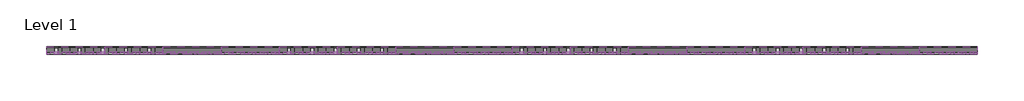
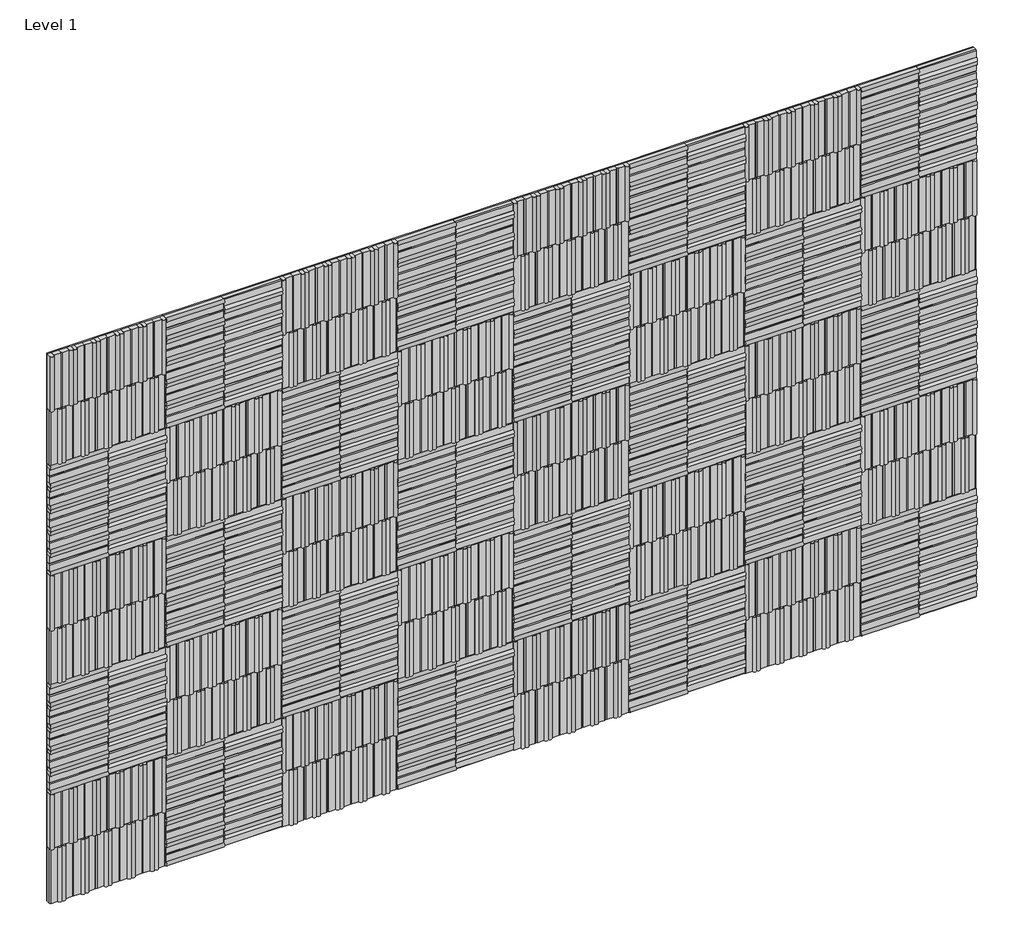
# One storey: 80 proxies.
"""IFC4 building model written with IfcOpenShell, lengths in millimetres."""

import ifcopenshell
import ifcopenshell.guid

model = None  # the IFC model being written
_history = None  # IfcOwnerHistory: only IFC2X3 demands one
_inside = {}  # id of a spatial element -> (the spatial element, [elements in it])
_under = {}  # id of a project, library or spatial element -> (it, [spatial elements below it])
_declared = {}  # id of a project -> (the project, [libraries it declares])
_typed = {}  # id of a type object -> (the type object, [elements of that type])
_made_of = {}  # id of a material, layer set ... -> (it, [elements and type objects made of it])


def new_model(schema):
    """Start an empty IFC model of exactly this schema.

    Asked for "IFC4X3", IfcOpenShell would pick the latest addendum, in which some entities
    have other attributes; the version numbers below select the first issue.
    IFC2X3 requires an IfcOwnerHistory on every rooted entity: one is made here for all.
    """
    global model, _history
    if schema == "IFC4X3":
        model = ifcopenshell.file(schema_version=(4, 3, 0, 0))
    else:
        model = ifcopenshell.file(schema=schema)
    _inside.clear()
    _under.clear()
    _declared.clear()
    _typed.clear()
    _made_of.clear()
    _history = None
    if model.schema == "IFC2X3":
        org = make("IfcOrganization", Name="unknown")
        user = make(
            "IfcPersonAndOrganization",
            ThePerson=make("IfcPerson", FamilyName="unknown"),
            TheOrganization=org,
        )
        app = make(
            "IfcApplication",
            ApplicationDeveloper=org,
            Version="unknown",
            ApplicationFullName="unknown",
            ApplicationIdentifier="unknown",
        )
        _history = make(
            "IfcOwnerHistory",
            OwningUser=user,
            OwningApplication=app,
            ChangeAction="ADDED",
            CreationDate=0,
        )
    return model


def make(cls, **values):
    """One entity of the class cls with the attributes given. An attribute that is None is left unset."""
    return model.create_entity(
        cls, **{name: value for name, value in values.items() if value is not None}
    )


def rooted(cls, **values):
    """An entity with a GlobalId (a new one), such as an element, a storey or a relation."""
    return make(cls, GlobalId=ifcopenshell.guid.new(), OwnerHistory=_history, **values)


def si_unit(unit_type, name, prefix=None):
    """IfcSIUnit, for example si_unit("LENGTHUNIT", "METRE", prefix="MILLI")."""
    return make("IfcSIUnit", UnitType=unit_type, Prefix=prefix, Name=name)


def assignment(units):
    """IfcUnitAssignment: the units of a project."""
    return None if units is None else make("IfcUnitAssignment", Units=units)


def point(xyz):
    """IfcCartesianPoint."""
    return None if xyz is None else make("IfcCartesianPoint", Coordinates=xyz)


def direction(xyz):
    """IfcDirection."""
    return None if xyz is None else make("IfcDirection", DirectionRatios=xyz)


def frame(location, z_axis=None, x_axis=None):
    """IfcAxis2Placement3D, a coordinate frame: its origin and axes. An axis left out is left unset."""
    return make(
        "IfcAxis2Placement3D",
        Location=point(location),
        Axis=direction(z_axis),
        RefDirection=direction(x_axis),
    )


def frame_2d(location, x_axis=None):
    """IfcAxis2Placement2D, a coordinate frame in the plane: its origin and x axis."""
    return make(
        "IfcAxis2Placement2D", Location=point(location), RefDirection=direction(x_axis)
    )


def origin():
    """The frame at (0, 0, 0) with its axes left unset."""
    return frame((0.0, 0.0, 0.0))


def origin_with_axes():
    """The frame at (0, 0, 0) with the z axis (0, 0, 1) and the x axis (1, 0, 0) written out."""
    return frame((0.0, 0.0, 0.0), z_axis=(0.0, 0.0, 1.0), x_axis=(1.0, 0.0, 0.0))


def place(relative_to, where):
    """IfcLocalPlacement: puts the frame where relative to a parent placement (None: the world)."""
    return make(
        "IfcLocalPlacement", PlacementRelTo=relative_to, RelativePlacement=where
    )


def context(
    kind, dimensions, precision=None, world=None, true_north=None, identifier=None
):
    """IfcGeometricRepresentationContext, for example the 3D "Model" context."""
    return make(
        "IfcGeometricRepresentationContext",
        ContextIdentifier=identifier,
        ContextType=kind,
        CoordinateSpaceDimension=dimensions,
        Precision=precision,
        WorldCoordinateSystem=world,
        TrueNorth=true_north,
    )


def project(units=None, contexts=None):
    """IfcProject with its units and contexts."""
    return rooted(
        "IfcProject",
        Name="project",
        RepresentationContexts=contexts,
        UnitsInContext=assignment(units),
    )


def spatial(cls, under=None, at=None, **own):
    """A site, building, storey or space (cls), placed at a placement, below another one or the project."""
    s = rooted(cls, ObjectPlacement=at, **own)
    if under is not None:
        _under.setdefault(under.id(), (under, []))[1].append(s)
    return s


def polyline(points):
    """IfcPolyline through the points."""
    return make("IfcPolyline", Points=[point(p) for p in points])


def circle_curve(where, radius):
    """IfcCircle in the frame where."""
    return make("IfcCircle", Position=where, Radius=radius)


def trimmed(basis, trim1, trim2, sense, master):
    """IfcTrimmedCurve: the piece of a basis curve between two trims."""
    return make(
        "IfcTrimmedCurve",
        BasisCurve=basis,
        Trim1=trim1,
        Trim2=trim2,
        SenseAgreement=sense,
        MasterRepresentation=master,
    )


def segment(curve, same_sense, transition):
    """IfcCompositeCurveSegment."""
    return make(
        "IfcCompositeCurveSegment",
        Transition=transition,
        SameSense=same_sense,
        ParentCurve=curve,
    )


def composite_curve(segments, self_intersect=None):
    """IfcCompositeCurve: segments joined end to end."""
    return make("IfcCompositeCurve", Segments=segments, SelfIntersect=self_intersect)


def outline(outer, holes=None, kind="AREA"):
    """IfcArbitraryClosedProfileDef: a profile drawn as a closed curve; with holes, ...WithVoids."""
    if holes is None:
        return make("IfcArbitraryClosedProfileDef", ProfileType=kind, OuterCurve=outer)
    return make(
        "IfcArbitraryProfileDefWithVoids",
        ProfileType=kind,
        OuterCurve=outer,
        InnerCurves=holes,
    )


def extrude(swept, where, along, depth):
    """IfcExtrudedAreaSolid: the profile swept, set in the frame where, extruded along a direction by depth."""
    return make(
        "IfcExtrudedAreaSolid",
        SweptArea=swept,
        Position=where,
        ExtrudedDirection=direction(along),
        Depth=depth,
    )


def shape(context_of_items, identifier, shape_type, items):
    """IfcShapeRepresentation: the items that make up one representation, for example the "Body"."""
    return make(
        "IfcShapeRepresentation",
        ContextOfItems=context_of_items,
        RepresentationIdentifier=identifier,
        RepresentationType=shape_type,
        Items=items,
    )


def source(mapping_origin, context_of_items, identifier, shape_type, items):
    """IfcRepresentationMap: a shape defined once, which mapped items show again and again."""
    return make(
        "IfcRepresentationMap",
        MappingOrigin=mapping_origin,
        MappedRepresentation=shape(context_of_items, identifier, shape_type, items),
    )


def transform(
    local_origin,
    x_axis=None,
    y_axis=None,
    z_axis=None,
    scale=None,
    scale2=None,
    scale3=None,
    uniform=True,
):
    """IfcCartesianTransformationOperator3D, or its non-uniform kind. x_axis, y_axis, z_axis: its Axis1, 2, 3."""
    if uniform:
        return make(
            "IfcCartesianTransformationOperator3D",
            Axis1=direction(x_axis),
            Axis2=direction(y_axis),
            LocalOrigin=point(local_origin),
            Scale=scale,
            Axis3=direction(z_axis),
        )
    return make(
        "IfcCartesianTransformationOperator3DnonUniform",
        Axis1=direction(x_axis),
        Axis2=direction(y_axis),
        LocalOrigin=point(local_origin),
        Scale=scale,
        Axis3=direction(z_axis),
        Scale2=scale2,
        Scale3=scale3,
    )


def mapped(mapping_source, mapping_target):
    """IfcMappedItem: shows the shape of a source again, moved by a transform."""
    return make(
        "IfcMappedItem", MappingSource=mapping_source, MappingTarget=mapping_target
    )


def made_of(thing, what):
    """Note that an element or type object is made of a material, layer set ...; save() writes the relation."""
    if what is not None:
        _made_of.setdefault(what.id(), (what, []))[1].append(thing)
    return thing


def element(
    cls,
    number,
    at=None,
    inside=None,
    cuts=None,
    type_object=None,
    material=None,
    context=None,
    identifier="Body",
    shape_type=None,
    held_by="IfcProductDefinitionShape",
    body=None,
    shapes=None,
    **own,
):
    """One element of the class cls, such as IfcWall. Its Tag is "e" and its number.

    at: its placement. inside: the storey or other place that contains it. cuts: it is an
    opening in that element (IfcRelVoidsElement). A single representation is given by context,
    identifier, shape_type and body (its items); several are given by shapes. held_by: the class
    of the entity that holds the representations. save() writes the other relations.
    """
    e = rooted(cls, Tag="e%d" % number, ObjectPlacement=at, **own)
    if body is not None:
        shapes = [shape(context, identifier, shape_type, body)]
    if shapes is not None:
        e.Representation = make(held_by, Representations=shapes)
    if inside is not None:
        _inside.setdefault(inside.id(), (inside, []))[1].append(e)
    if cuts is not None:
        rooted(
            "IfcRelVoidsElement", RelatingBuildingElement=cuts, RelatedOpeningElement=e
        )
    if type_object is not None:
        _typed.setdefault(type_object.id(), (type_object, []))[1].append(e)
    return made_of(e, material)


def aggregate(whole, parts):
    """IfcRelAggregates: a whole, such as a stair, and the parts it consists of."""
    return rooted("IfcRelAggregates", RelatingObject=whole, RelatedObjects=parts)


def save(model, path):
    """Write the relations noted so far, then the file.

    IfcRelAggregates (storeys below a building ...), IfcRelContainedInSpatialStructure (elements
    in a storey), IfcRelDefinesByType, IfcRelAssociatesMaterial and IfcRelDeclares: one each for
    every whole, place, type object, material and project.
    """
    for whole, parts in _under.values():
        aggregate(whole, parts)
    for where, things in _inside.values():
        rooted(
            "IfcRelContainedInSpatialStructure",
            RelatedElements=things,
            RelatingStructure=where,
        )
    for kind, things in _typed.values():
        rooted("IfcRelDefinesByType", RelatedObjects=things, RelatingType=kind)
    for what, things in _made_of.values():
        rooted("IfcRelAssociatesMaterial", RelatedObjects=things, RelatingMaterial=what)
    for by, libraries in _declared.values():
        rooted("IfcRelDeclares", RelatingContext=by, RelatedDefinitions=libraries)
    model.write(path)


def tile_a_04621a4c(model_context):
    return source(origin(), model_context, "Body", "SweptSolid", [
        extrude(outline(polyline([(23.0303228, 0.0), (6.0, 0.0), (6.0, 35.9833333), (27.0, 35.9833333), (27.0, 3.9696772), (23.0303228, 0.0)])), frame((0.0, -134.9375, 0.0), z_axis=(0.0, 1.0, 0.0), x_axis=(0.0, 0.0, 1.0)), (0.0, 0.0, 1.0), 269.875),
        extrude(outline(polyline([(23.0303228, 107.95), (6.0, 107.95), (6.0, 143.9333333), (27.0, 143.9333333), (27.0, 111.9196772), (23.0303228, 107.95)])), frame((0.0, -134.9375, 0.0), z_axis=(0.0, 1.0, 0.0), x_axis=(0.0, 0.0, 1.0)), (0.0, 0.0, 1.0), 269.875),
        extrude(outline(polyline([(23.0303228, 215.9), (6.0, 215.9), (6.0, 251.8833333), (27.0, 251.8833333), (27.0, 219.8696772), (23.0303228, 215.9)])), frame((0.0, -134.9375, 0.0), z_axis=(0.0, 1.0, 0.0), x_axis=(0.0, 0.0, 1.0)), (0.0, 0.0, 1.0), 269.875),
        extrude(outline(polyline([(27.0, -211.9303228), (23.0303228, -215.9), (6.0, -215.9), (6.0, -179.9166667), (27.0, -179.9166667), (27.0, -211.9303228)])), frame((0.0, -134.9375, 0.0), z_axis=(0.0, 1.0, 0.0), x_axis=(0.0, 0.0, 1.0)), (0.0, 0.0, 1.0), 269.875),
        extrude(outline(polyline([(27.0, -103.9803228), (23.0303228, -107.95), (6.0, -107.95), (6.0, -71.9666667), (27.0, -71.9666667), (27.0, -103.9803228)])), frame((0.0, -134.9375, 0.0), z_axis=(0.0, 1.0, 0.0), x_axis=(0.0, 0.0, 1.0)), (0.0, 0.0, 1.0), 269.875),
        extrude(outline(composite_curve([segment(polyline([(6.0, -251.8833333), (27.0, -251.8833333)]), True, "CONTINUOUS"), segment(trimmed(circle_curve(frame_2d((27.0, -260.8791667)), 8.9958333), [point((27.0, -251.8833333))], [point((27.0, -269.875))], False, "CARTESIAN"), True, "CONTINUOUS"), segment(polyline([(27.0, -269.875), (6.0, -269.875), (6.0, -251.8833333)]), True, "CONTINUOUS")], self_intersect=False)), frame((0.0, -134.9375, 0.0), z_axis=(0.0, 1.0, 0.0), x_axis=(0.0, 0.0, 1.0)), (0.0, 0.0, 1.0), 269.875),
        extrude(outline(composite_curve([segment(polyline([(6.0, -161.925), (27.0, -161.925)]), True, "CONTINUOUS"), segment(trimmed(circle_curve(frame_2d((27.0, -170.9208333)), 8.9958333), [point((27.0, -161.925))], [point((27.0, -179.9166667))], False, "CARTESIAN"), True, "CONTINUOUS"), segment(polyline([(27.0, -179.9166667), (6.0, -179.9166667), (6.0, -161.925)]), True, "CONTINUOUS")], self_intersect=False)), frame((0.0, -134.9375, 0.0), z_axis=(0.0, 1.0, 0.0), x_axis=(0.0, 0.0, 1.0)), (0.0, 0.0, 1.0), 269.875),
        extrude(outline(composite_curve([segment(polyline([(6.0, -35.9833333), (27.0, -35.9833333)]), True, "CONTINUOUS"), segment(trimmed(circle_curve(frame_2d((27.0, -44.9791667)), 8.9958333), [point((27.0, -35.9833333))], [point((27.0, -53.975))], False, "CARTESIAN"), True, "CONTINUOUS"), segment(polyline([(27.0, -53.975), (6.0, -53.975), (6.0, -35.9833333)]), True, "CONTINUOUS")], self_intersect=False)), frame((0.0, -134.9375, 0.0), z_axis=(0.0, 1.0, 0.0), x_axis=(0.0, 0.0, 1.0)), (0.0, 0.0, 1.0), 269.875),
        extrude(outline(composite_curve([segment(polyline([(6.0, 251.8833333), (6.0, 269.875), (27.0, 269.875)]), True, "CONTINUOUS"), segment(trimmed(circle_curve(frame_2d((27.0, 260.8791667)), 8.9958333), [point((27.0, 269.875))], [point((27.0, 251.8833333))], False, "CARTESIAN"), True, "CONTINUOUS"), segment(polyline([(27.0, 251.8833333), (6.0, 251.8833333)]), True, "CONTINUOUS")], self_intersect=False)), frame((0.0, -134.9375, 0.0), z_axis=(0.0, 1.0, 0.0), x_axis=(0.0, 0.0, 1.0)), (0.0, 0.0, 1.0), 269.875),
        extrude(outline(composite_curve([segment(polyline([(6.0, 161.925), (6.0, 179.9166667), (27.0, 179.9166667)]), True, "CONTINUOUS"), segment(trimmed(circle_curve(frame_2d((27.0, 170.9208333)), 8.9958333), [point((27.0, 179.9166667))], [point((27.0, 161.925))], False, "CARTESIAN"), True, "CONTINUOUS"), segment(polyline([(27.0, 161.925), (6.0, 161.925)]), True, "CONTINUOUS")], self_intersect=False)), frame((0.0, -134.9375, 0.0), z_axis=(0.0, 1.0, 0.0), x_axis=(0.0, 0.0, 1.0)), (0.0, 0.0, 1.0), 269.875),
        extrude(outline(composite_curve([segment(polyline([(6.0, 35.9833333), (6.0, 53.975), (27.0, 53.975)]), True, "CONTINUOUS"), segment(trimmed(circle_curve(frame_2d((27.0, 44.9791667)), 8.9958333), [point((27.0, 53.975))], [point((27.0, 35.9833333))], False, "CARTESIAN"), True, "CONTINUOUS"), segment(polyline([(27.0, 35.9833333), (6.0, 35.9833333)]), True, "CONTINUOUS")], self_intersect=False)), frame((0.0, -134.9375, 0.0), z_axis=(0.0, 1.0, 0.0), x_axis=(0.0, 0.0, 1.0)), (0.0, 0.0, 1.0), 269.875),
        extrude(outline(polyline([(23.0303228, -215.9), (27.0, -219.8696772), (27.0, -251.8833333), (6.0, -251.8833333), (6.0, -215.9), (23.0303228, -215.9)])), frame((0.0, -134.9375, 0.0), z_axis=(0.0, 1.0, 0.0), x_axis=(0.0, 0.0, 1.0)), (0.0, 0.0, 1.0), 269.875),
        extrude(outline(polyline([(23.0303228, -107.95), (27.0, -111.9196772), (27.0, -143.9333333), (6.0, -143.9333333), (6.0, -107.95), (23.0303228, -107.95)])), frame((0.0, -134.9375, 0.0), z_axis=(0.0, 1.0, 0.0), x_axis=(0.0, 0.0, 1.0)), (0.0, 0.0, 1.0), 269.875),
        extrude(outline(polyline([(23.0303228, 0.0), (27.0, -3.9696772), (27.0, -35.9833333), (6.0, -35.9833333), (6.0, 0.0), (23.0303228, 0.0)])), frame((0.0, -134.9375, 0.0), z_axis=(0.0, 1.0, 0.0), x_axis=(0.0, 0.0, 1.0)), (0.0, 0.0, 1.0), 269.875),
        extrude(outline(polyline([(27.0, 103.9803228), (27.0, 71.9666667), (6.0, 71.9666667), (6.0, 107.95), (23.0303228, 107.95), (27.0, 103.9803228)])), frame((0.0, -134.9375, 0.0), z_axis=(0.0, 1.0, 0.0), x_axis=(0.0, 0.0, 1.0)), (0.0, 0.0, 1.0), 269.875),
        extrude(outline(polyline([(27.0, 211.9303228), (27.0, 179.9166667), (6.0, 179.9166667), (6.0, 215.9), (23.0303228, 215.9), (27.0, 211.9303228)])), frame((0.0, -134.9375, 0.0), z_axis=(0.0, 1.0, 0.0), x_axis=(0.0, 0.0, 1.0)), (0.0, 0.0, 1.0), 269.875),
        extrude(outline(polyline([(269.875, 134.9375), (269.875, -134.9375), (-269.875, -134.9375), (-269.875, 134.9375), (269.875, 134.9375)])), origin_with_axes(), (0.0, 0.0, 1.0), 6.0),
        extrude(outline(composite_curve([segment(trimmed(circle_curve(frame_2d((27.0, -152.9291667)), 8.9958333), [point((27.0, -143.9333333))], [point((27.0, -161.925))], False, "CARTESIAN"), True, "CONTINUOUS"), segment(polyline([(27.0, -161.925), (6.0, -161.925), (6.0, -143.9333333), (27.0, -143.9333333)]), True, "CONTINUOUS")], self_intersect=False)), frame((0.0, -134.9375, 0.0), z_axis=(0.0, 1.0, 0.0), x_axis=(0.0, 0.0, 1.0)), (0.0, 0.0, 1.0), 269.875),
        extrude(outline(composite_curve([segment(trimmed(circle_curve(frame_2d((27.0, -62.9708333)), 8.9958333), [point((27.0, -53.975))], [point((27.0, -71.9666667))], False, "CARTESIAN"), True, "CONTINUOUS"), segment(polyline([(27.0, -71.9666667), (6.0, -71.9666667), (6.0, -53.975), (27.0, -53.975)]), True, "CONTINUOUS")], self_intersect=False)), frame((0.0, -134.9375, 0.0), z_axis=(0.0, 1.0, 0.0), x_axis=(0.0, 0.0, 1.0)), (0.0, 0.0, 1.0), 269.875),
        extrude(outline(composite_curve([segment(polyline([(27.0, 143.9333333), (6.0, 143.9333333), (6.0, 161.925), (27.0, 161.925)]), True, "CONTINUOUS"), segment(trimmed(circle_curve(frame_2d((27.0, 152.9291667)), 8.9958333), [point((27.0, 161.925))], [point((27.0, 143.9333333))], False, "CARTESIAN"), True, "CONTINUOUS")], self_intersect=False)), frame((0.0, -134.9375, 0.0), z_axis=(0.0, 1.0, 0.0), x_axis=(0.0, 0.0, 1.0)), (0.0, 0.0, 1.0), 269.875),
        extrude(outline(composite_curve([segment(polyline([(27.0, 53.975), (6.0, 53.975), (6.0, 71.9666667), (27.0, 71.9666667)]), True, "CONTINUOUS"), segment(trimmed(circle_curve(frame_2d((27.0, 62.9708333)), 8.9958333), [point((27.0, 71.9666667))], [point((27.0, 53.975))], False, "CARTESIAN"), True, "CONTINUOUS")], self_intersect=False)), frame((0.0, -134.9375, 0.0), z_axis=(0.0, 1.0, 0.0), x_axis=(0.0, 0.0, 1.0)), (0.0, 0.0, 1.0), 269.875),
    ])


def tile_b_29a99269(model_context):
    return source(origin(), model_context, "Body", "SweptSolid", [
        extrude(outline(polyline([(23.0303228, -53.975), (27.0, -57.9446772), (27.0, -89.9583333), (6.0, -89.9583333), (6.0, -53.975), (23.0303228, -53.975)])), frame((0.0, -134.9375, 0.0), z_axis=(0.0, 1.0, 0.0), x_axis=(0.0, 0.0, 1.0)), (0.0, 0.0, 1.0), 269.875),
        extrude(outline(polyline([(23.0303228, -161.925), (27.0, -165.8946772), (27.0, -197.9083333), (6.0, -197.9083333), (6.0, -161.925), (23.0303228, -161.925)])), frame((0.0, -134.9375, 0.0), z_axis=(0.0, 1.0, 0.0), x_axis=(0.0, 0.0, 1.0)), (0.0, 0.0, 1.0), 269.875),
        extrude(outline(polyline([(27.0, -265.9053228), (23.0303228, -269.875), (6.0, -269.875), (6.0, -233.8916667), (27.0, -233.8916667), (27.0, -265.9053228)])), frame((0.0, -134.9375, 0.0), z_axis=(0.0, 1.0, 0.0), x_axis=(0.0, 0.0, 1.0)), (0.0, 0.0, 1.0), 269.875),
        extrude(outline(polyline([(23.0303228, 53.975), (27.0, 50.0053228), (27.0, 17.9916667), (6.0, 17.9916667), (6.0, 53.975), (23.0303228, 53.975)])), frame((0.0, -134.9375, 0.0), z_axis=(0.0, 1.0, 0.0), x_axis=(0.0, 0.0, 1.0)), (0.0, 0.0, 1.0), 269.875),
        extrude(outline(polyline([(27.0, 265.9053228), (27.0, 233.8916667), (6.0, 233.8916667), (6.0, 269.875), (23.0303228, 269.875), (27.0, 265.9053228)])), frame((0.0, -134.9375, 0.0), z_axis=(0.0, 1.0, 0.0), x_axis=(0.0, 0.0, 1.0)), (0.0, 0.0, 1.0), 269.875),
        extrude(outline(polyline([(27.0, 157.9553228), (27.0, 125.9416667), (6.0, 125.9416667), (6.0, 161.925), (23.0303228, 161.925), (27.0, 157.9553228)])), frame((0.0, -134.9375, 0.0), z_axis=(0.0, 1.0, 0.0), x_axis=(0.0, 0.0, 1.0)), (0.0, 0.0, 1.0), 269.875),
        extrude(outline(composite_curve([segment(trimmed(circle_curve(frame_2d((27.0, -206.9041667)), 8.9958333), [point((27.0, -197.9083333))], [point((27.0, -215.9))], False, "CARTESIAN"), True, "CONTINUOUS"), segment(polyline([(27.0, -215.9), (6.0, -215.9), (6.0, -197.9083333), (27.0, -197.9083333)]), True, "CONTINUOUS")], self_intersect=False)), frame((0.0, -134.9375, 0.0), z_axis=(0.0, 1.0, 0.0), x_axis=(0.0, 0.0, 1.0)), (0.0, 0.0, 1.0), 269.875),
        extrude(outline(composite_curve([segment(trimmed(circle_curve(frame_2d((27.0, -98.9541667)), 8.9958333), [point((27.0, -89.9583333))], [point((27.0, -107.95))], False, "CARTESIAN"), True, "CONTINUOUS"), segment(polyline([(27.0, -107.95), (6.0, -107.95), (6.0, -89.9583333), (27.0, -89.9583333)]), True, "CONTINUOUS")], self_intersect=False)), frame((0.0, -134.9375, 0.0), z_axis=(0.0, 1.0, 0.0), x_axis=(0.0, 0.0, 1.0)), (0.0, 0.0, 1.0), 269.875),
        extrude(outline(composite_curve([segment(polyline([(27.0, 107.95), (6.0, 107.95), (6.0, 125.9416667), (27.0, 125.9416667)]), True, "CONTINUOUS"), segment(trimmed(circle_curve(frame_2d((27.0, 116.9458333)), 8.9958333), [point((27.0, 125.9416667))], [point((27.0, 107.95))], False, "CARTESIAN"), True, "CONTINUOUS")], self_intersect=False)), frame((0.0, -134.9375, 0.0), z_axis=(0.0, 1.0, 0.0), x_axis=(0.0, 0.0, 1.0)), (0.0, 0.0, 1.0), 269.875),
        extrude(outline(composite_curve([segment(polyline([(27.0, 0.0), (6.0, 0.0), (6.0, 17.9916667), (27.0, 17.9916667)]), True, "CONTINUOUS"), segment(trimmed(circle_curve(frame_2d((27.0, 8.9958333)), 8.9958333), [point((27.0, 17.9916667))], [point((27.0, 0.0))], False, "CARTESIAN"), True, "CONTINUOUS")], self_intersect=False)), frame((0.0, -134.9375, 0.0), z_axis=(0.0, 1.0, 0.0), x_axis=(0.0, 0.0, 1.0)), (0.0, 0.0, 1.0), 269.875),
        extrude(outline(composite_curve([segment(polyline([(27.0, 197.9083333), (6.0, 197.9083333), (6.0, 215.9), (27.0, 215.9)]), True, "CONTINUOUS"), segment(trimmed(circle_curve(frame_2d((27.0, 206.9041667)), 8.9958333), [point((27.0, 215.9))], [point((27.0, 197.9083333))], False, "CARTESIAN"), True, "CONTINUOUS")], self_intersect=False)), frame((0.0, -134.9375, 0.0), z_axis=(0.0, 1.0, 0.0), x_axis=(0.0, 0.0, 1.0)), (0.0, 0.0, 1.0), 269.875),
        extrude(outline(polyline([(27.0, -157.9553228), (23.0303228, -161.925), (6.0, -161.925), (6.0, -125.9416667), (27.0, -125.9416667), (27.0, -157.9553228)])), frame((0.0, -134.9375, 0.0), z_axis=(0.0, 1.0, 0.0), x_axis=(0.0, 0.0, 1.0)), (0.0, 0.0, 1.0), 269.875),
        extrude(outline(polyline([(23.0303228, -53.975), (6.0, -53.975), (6.0, -17.9916667), (27.0, -17.9916667), (27.0, -50.0053228), (23.0303228, -53.975)])), frame((0.0, -134.9375, 0.0), z_axis=(0.0, 1.0, 0.0), x_axis=(0.0, 0.0, 1.0)), (0.0, 0.0, 1.0), 269.875),
        extrude(outline(polyline([(23.0303228, 161.925), (6.0, 161.925), (6.0, 197.9083333), (27.0, 197.9083333), (27.0, 165.8946772), (23.0303228, 161.925)])), frame((0.0, -134.9375, 0.0), z_axis=(0.0, 1.0, 0.0), x_axis=(0.0, 0.0, 1.0)), (0.0, 0.0, 1.0), 269.875),
        extrude(outline(polyline([(23.0303228, 53.975), (6.0, 53.975), (6.0, 89.9583333), (27.0, 89.9583333), (27.0, 57.9446772), (23.0303228, 53.975)])), frame((0.0, -134.9375, 0.0), z_axis=(0.0, 1.0, 0.0), x_axis=(0.0, 0.0, 1.0)), (0.0, 0.0, 1.0), 269.875),
        extrude(outline(composite_curve([segment(polyline([(6.0, 215.9), (6.0, 233.8916667), (27.0, 233.8916667)]), True, "CONTINUOUS"), segment(trimmed(circle_curve(frame_2d((27.0, 224.8958333)), 8.9958333), [point((27.0, 233.8916667))], [point((27.0, 215.9))], False, "CARTESIAN"), True, "CONTINUOUS"), segment(polyline([(27.0, 215.9), (6.0, 215.9)]), True, "CONTINUOUS")], self_intersect=False)), frame((0.0, -134.9375, 0.0), z_axis=(0.0, 1.0, 0.0), x_axis=(0.0, 0.0, 1.0)), (0.0, 0.0, 1.0), 269.875),
        extrude(outline(composite_curve([segment(polyline([(6.0, 89.9583333), (6.0, 107.95), (27.0, 107.95)]), True, "CONTINUOUS"), segment(trimmed(circle_curve(frame_2d((27.0, 98.9541667)), 8.9958333), [point((27.0, 107.95))], [point((27.0, 89.9583333))], False, "CARTESIAN"), True, "CONTINUOUS"), segment(polyline([(27.0, 89.9583333), (6.0, 89.9583333)]), True, "CONTINUOUS")], self_intersect=False)), frame((0.0, -134.9375, 0.0), z_axis=(0.0, 1.0, 0.0), x_axis=(0.0, 0.0, 1.0)), (0.0, 0.0, 1.0), 269.875),
        extrude(outline(composite_curve([segment(polyline([(6.0, -215.9), (27.0, -215.9)]), True, "CONTINUOUS"), segment(trimmed(circle_curve(frame_2d((27.0, -224.8958333)), 8.9958333), [point((27.0, -215.9))], [point((27.0, -233.8916667))], False, "CARTESIAN"), True, "CONTINUOUS"), segment(polyline([(27.0, -233.8916667), (6.0, -233.8916667), (6.0, -215.9)]), True, "CONTINUOUS")], self_intersect=False)), frame((0.0, -134.9375, 0.0), z_axis=(0.0, 1.0, 0.0), x_axis=(0.0, 0.0, 1.0)), (0.0, 0.0, 1.0), 269.875),
        extrude(outline(composite_curve([segment(polyline([(6.0, -107.95), (27.0, -107.95)]), True, "CONTINUOUS"), segment(trimmed(circle_curve(frame_2d((27.0, -116.9458333)), 8.9958333), [point((27.0, -107.95))], [point((27.0, -125.9416667))], False, "CARTESIAN"), True, "CONTINUOUS"), segment(polyline([(27.0, -125.9416667), (6.0, -125.9416667), (6.0, -107.95)]), True, "CONTINUOUS")], self_intersect=False)), frame((0.0, -134.9375, 0.0), z_axis=(0.0, 1.0, 0.0), x_axis=(0.0, 0.0, 1.0)), (0.0, 0.0, 1.0), 269.875),
        extrude(outline(composite_curve([segment(polyline([(6.0, 0.0), (27.0, 0.0)]), True, "CONTINUOUS"), segment(trimmed(circle_curve(frame_2d((27.0, -8.9958333)), 8.9958333), [point((27.0, 0.0))], [point((27.0, -17.9916667))], False, "CARTESIAN"), True, "CONTINUOUS"), segment(polyline([(27.0, -17.9916667), (6.0, -17.9916667), (6.0, 0.0)]), True, "CONTINUOUS")], self_intersect=False)), frame((0.0, -134.9375, 0.0), z_axis=(0.0, 1.0, 0.0), x_axis=(0.0, 0.0, 1.0)), (0.0, 0.0, 1.0), 269.875),
        extrude(outline(polyline([(269.875, 134.9375), (269.875, -134.9375), (-269.875, -134.9375), (-269.875, 134.9375), (269.875, 134.9375)])), origin_with_axes(), (0.0, 0.0, 1.0), 6.0),
    ])


model = new_model("IFC4")

# Units and contexts
model_context = context("Model", 3, world=origin())
ifc_project = project(units=[si_unit("LENGTHUNIT", "METRE", prefix="MILLI")], contexts=[model_context])

# Site, building, storey
site = spatial("IfcSite", under=ifc_project)
building = spatial("IfcBuilding", under=site)
storey = spatial("IfcBuildingStorey", under=building, Name="Level 1", Elevation=0.0)

# Proxies
placement = place(None, origin())
tile_a_shape = tile_a_04621a4c(model_context)
element("IfcBuildingElementProxy", 1, Name="Spinneybeck_Søuld Fragments Manufacturing Drawing : Tile A", ObjectType="Spinneybeck_Søuld Fragments Manufacturing Drawing : Tile A", at=placement, inside=storey, context=model_context, shape_type="MappedRepresentation", body=[
    mapped(tile_a_shape, transform((-14799.0533519, -663.006777, 404.8125), x_axis=(1.0, 0.0, 0.0), y_axis=(0.0, 0.0, 1.0), z_axis=(0.0, -1.0, 0.0))),
])
element("IfcBuildingElementProxy", 2, Name="Spinneybeck_Søuld Fragments Manufacturing Drawing : Tile A", ObjectType="Spinneybeck_Søuld Fragments Manufacturing Drawing : Tile A", at=placement, inside=storey, context=model_context, shape_type="MappedRepresentation", body=[
    mapped(tile_a_shape, transform((-14394.2408519, -663.006777, 269.875), x_axis=(0.0, 0.0, 1.0), y_axis=(-1.0, 0.0, 0.0), z_axis=(0.0, -1.0, 0.0))),
])
element("IfcBuildingElementProxy", 3, Name="Spinneybeck_Søuld Fragments Manufacturing Drawing : Tile A", ObjectType="Spinneybeck_Søuld Fragments Manufacturing Drawing : Tile A", at=placement, inside=storey, context=model_context, shape_type="MappedRepresentation", body=[
    mapped(tile_a_shape, transform((-14259.3033519, -663.006777, 944.5625), x_axis=(-1.0, 0.0, 0.0), y_axis=(0.0, 0.0, -1.0), z_axis=(0.0, -1.0, 0.0))),
])
element("IfcBuildingElementProxy", 4, Name="Spinneybeck_Søuld Fragments Manufacturing Drawing : Tile A", ObjectType="Spinneybeck_Søuld Fragments Manufacturing Drawing : Tile A", at=placement, inside=storey, context=model_context, shape_type="MappedRepresentation", body=[
    mapped(tile_a_shape, transform((-14799.0533519, -663.006777, 1484.3125), x_axis=(1.0, 0.0, 0.0), y_axis=(0.0, 0.0, 1.0), z_axis=(0.0, -1.0, 0.0))),
])
element("IfcBuildingElementProxy", 5, Name="Spinneybeck_Søuld Fragments Manufacturing Drawing : Tile A", ObjectType="Spinneybeck_Søuld Fragments Manufacturing Drawing : Tile A", at=placement, inside=storey, context=model_context, shape_type="MappedRepresentation", body=[
    mapped(tile_a_shape, transform((-14394.2408519, -663.006777, 1349.375), x_axis=(0.0, 0.0, 1.0), y_axis=(-1.0, 0.0, 0.0), z_axis=(0.0, -1.0, 0.0))),
])
element("IfcBuildingElementProxy", 6, Name="Spinneybeck_Søuld Fragments Manufacturing Drawing : Tile A", ObjectType="Spinneybeck_Søuld Fragments Manufacturing Drawing : Tile A", at=placement, inside=storey, context=model_context, shape_type="MappedRepresentation", body=[
    mapped(tile_a_shape, transform((-14259.3033519, -663.006777, 2024.0625), x_axis=(-1.0, 0.0, 0.0), y_axis=(0.0, 0.0, -1.0), z_axis=(0.0, -1.0, 0.0))),
])
element("IfcBuildingElementProxy", 7, Name="Spinneybeck_Søuld Fragments Manufacturing Drawing : Tile A", ObjectType="Spinneybeck_Søuld Fragments Manufacturing Drawing : Tile A", at=placement, inside=storey, context=model_context, shape_type="MappedRepresentation", body=[
    mapped(tile_a_shape, transform((-14799.0533519, -663.006777, 2563.8125), x_axis=(1.0, 0.0, 0.0), y_axis=(0.0, 0.0, 1.0), z_axis=(0.0, -1.0, 0.0))),
])
element("IfcBuildingElementProxy", 8, Name="Spinneybeck_Søuld Fragments Manufacturing Drawing : Tile A", ObjectType="Spinneybeck_Søuld Fragments Manufacturing Drawing : Tile A", at=placement, inside=storey, context=model_context, shape_type="MappedRepresentation", body=[
    mapped(tile_a_shape, transform((-14394.2408519, -663.006777, 2428.875), x_axis=(0.0, 0.0, 1.0), y_axis=(-1.0, 0.0, 0.0), z_axis=(0.0, -1.0, 0.0))),
])
element("IfcBuildingElementProxy", 9, Name="Spinneybeck_Søuld Fragments Manufacturing Drawing : Tile A", ObjectType="Spinneybeck_Søuld Fragments Manufacturing Drawing : Tile A", at=placement, inside=storey, context=model_context, shape_type="MappedRepresentation", body=[
    mapped(tile_a_shape, transform((-13719.5533519, -663.006777, 404.8125), x_axis=(1.0, 0.0, 0.0), y_axis=(0.0, 0.0, 1.0), z_axis=(0.0, -1.0, 0.0))),
])
element("IfcBuildingElementProxy", 10, Name="Spinneybeck_Søuld Fragments Manufacturing Drawing : Tile A", ObjectType="Spinneybeck_Søuld Fragments Manufacturing Drawing : Tile A", at=placement, inside=storey, context=model_context, shape_type="MappedRepresentation", body=[
    mapped(tile_a_shape, transform((-13314.7408519, -663.006777, 269.875), x_axis=(0.0, 0.0, 1.0), y_axis=(-1.0, 0.0, 0.0), z_axis=(0.0, -1.0, 0.0))),
])
element("IfcBuildingElementProxy", 11, Name="Spinneybeck_Søuld Fragments Manufacturing Drawing : Tile A", ObjectType="Spinneybeck_Søuld Fragments Manufacturing Drawing : Tile A", at=placement, inside=storey, context=model_context, shape_type="MappedRepresentation", body=[
    mapped(tile_a_shape, transform((-13179.8033519, -663.006777, 944.5625), x_axis=(-1.0, 0.0, 0.0), y_axis=(0.0, 0.0, -1.0), z_axis=(0.0, -1.0, 0.0))),
])
element("IfcBuildingElementProxy", 12, Name="Spinneybeck_Søuld Fragments Manufacturing Drawing : Tile A", ObjectType="Spinneybeck_Søuld Fragments Manufacturing Drawing : Tile A", at=placement, inside=storey, context=model_context, shape_type="MappedRepresentation", body=[
    mapped(tile_a_shape, transform((-13719.5533519, -663.006777, 1484.3125), x_axis=(1.0, 0.0, 0.0), y_axis=(0.0, 0.0, 1.0), z_axis=(0.0, -1.0, 0.0))),
])
element("IfcBuildingElementProxy", 13, Name="Spinneybeck_Søuld Fragments Manufacturing Drawing : Tile A", ObjectType="Spinneybeck_Søuld Fragments Manufacturing Drawing : Tile A", at=placement, inside=storey, context=model_context, shape_type="MappedRepresentation", body=[
    mapped(tile_a_shape, transform((-13314.7408519, -663.006777, 1349.375), x_axis=(0.0, 0.0, 1.0), y_axis=(-1.0, 0.0, 0.0), z_axis=(0.0, -1.0, 0.0))),
])
element("IfcBuildingElementProxy", 14, Name="Spinneybeck_Søuld Fragments Manufacturing Drawing : Tile A", ObjectType="Spinneybeck_Søuld Fragments Manufacturing Drawing : Tile A", at=placement, inside=storey, context=model_context, shape_type="MappedRepresentation", body=[
    mapped(tile_a_shape, transform((-13179.8033519, -663.006777, 2024.0625), x_axis=(-1.0, 0.0, 0.0), y_axis=(0.0, 0.0, -1.0), z_axis=(0.0, -1.0, 0.0))),
])
element("IfcBuildingElementProxy", 15, Name="Spinneybeck_Søuld Fragments Manufacturing Drawing : Tile A", ObjectType="Spinneybeck_Søuld Fragments Manufacturing Drawing : Tile A", at=placement, inside=storey, context=model_context, shape_type="MappedRepresentation", body=[
    mapped(tile_a_shape, transform((-13719.5533519, -663.006777, 2563.8125), x_axis=(1.0, 0.0, 0.0), y_axis=(0.0, 0.0, 1.0), z_axis=(0.0, -1.0, 0.0))),
])
element("IfcBuildingElementProxy", 16, Name="Spinneybeck_Søuld Fragments Manufacturing Drawing : Tile A", ObjectType="Spinneybeck_Søuld Fragments Manufacturing Drawing : Tile A", at=placement, inside=storey, context=model_context, shape_type="MappedRepresentation", body=[
    mapped(tile_a_shape, transform((-13314.7408519, -663.006777, 2428.875), x_axis=(0.0, 0.0, 1.0), y_axis=(-1.0, 0.0, 0.0), z_axis=(0.0, -1.0, 0.0))),
])
element("IfcBuildingElementProxy", 17, Name="Spinneybeck_Søuld Fragments Manufacturing Drawing : Tile A", ObjectType="Spinneybeck_Søuld Fragments Manufacturing Drawing : Tile A", at=placement, inside=storey, context=model_context, shape_type="MappedRepresentation", body=[
    mapped(tile_a_shape, transform((-12640.0533519, -663.006777, 404.8125), x_axis=(1.0, 0.0, 0.0), y_axis=(0.0, 0.0, 1.0), z_axis=(0.0, -1.0, 0.0))),
])
element("IfcBuildingElementProxy", 18, Name="Spinneybeck_Søuld Fragments Manufacturing Drawing : Tile A", ObjectType="Spinneybeck_Søuld Fragments Manufacturing Drawing : Tile A", at=placement, inside=storey, context=model_context, shape_type="MappedRepresentation", body=[
    mapped(tile_a_shape, transform((-12235.2408519, -663.006777, 269.875), x_axis=(0.0, 0.0, 1.0), y_axis=(-1.0, 0.0, 0.0), z_axis=(0.0, -1.0, 0.0))),
])
element("IfcBuildingElementProxy", 19, Name="Spinneybeck_Søuld Fragments Manufacturing Drawing : Tile A", ObjectType="Spinneybeck_Søuld Fragments Manufacturing Drawing : Tile A", at=placement, inside=storey, context=model_context, shape_type="MappedRepresentation", body=[
    mapped(tile_a_shape, transform((-12100.3033519, -663.006777, 944.5625), x_axis=(-1.0, 0.0, 0.0), y_axis=(0.0, 0.0, -1.0), z_axis=(0.0, -1.0, 0.0))),
])
element("IfcBuildingElementProxy", 20, Name="Spinneybeck_Søuld Fragments Manufacturing Drawing : Tile A", ObjectType="Spinneybeck_Søuld Fragments Manufacturing Drawing : Tile A", at=placement, inside=storey, context=model_context, shape_type="MappedRepresentation", body=[
    mapped(tile_a_shape, transform((-12640.0533519, -663.006777, 1484.3125), x_axis=(1.0, 0.0, 0.0), y_axis=(0.0, 0.0, 1.0), z_axis=(0.0, -1.0, 0.0))),
])
element("IfcBuildingElementProxy", 21, Name="Spinneybeck_Søuld Fragments Manufacturing Drawing : Tile A", ObjectType="Spinneybeck_Søuld Fragments Manufacturing Drawing : Tile A", at=placement, inside=storey, context=model_context, shape_type="MappedRepresentation", body=[
    mapped(tile_a_shape, transform((-12235.2408519, -663.006777, 1349.375), x_axis=(0.0, 0.0, 1.0), y_axis=(-1.0, 0.0, 0.0), z_axis=(0.0, -1.0, 0.0))),
])
element("IfcBuildingElementProxy", 22, Name="Spinneybeck_Søuld Fragments Manufacturing Drawing : Tile A", ObjectType="Spinneybeck_Søuld Fragments Manufacturing Drawing : Tile A", at=placement, inside=storey, context=model_context, shape_type="MappedRepresentation", body=[
    mapped(tile_a_shape, transform((-12100.3033519, -663.006777, 2024.0625), x_axis=(-1.0, 0.0, 0.0), y_axis=(0.0, 0.0, -1.0), z_axis=(0.0, -1.0, 0.0))),
])
element("IfcBuildingElementProxy", 23, Name="Spinneybeck_Søuld Fragments Manufacturing Drawing : Tile A", ObjectType="Spinneybeck_Søuld Fragments Manufacturing Drawing : Tile A", at=placement, inside=storey, context=model_context, shape_type="MappedRepresentation", body=[
    mapped(tile_a_shape, transform((-12640.0533519, -663.006777, 2563.8125), x_axis=(1.0, 0.0, 0.0), y_axis=(0.0, 0.0, 1.0), z_axis=(0.0, -1.0, 0.0))),
])
element("IfcBuildingElementProxy", 24, Name="Spinneybeck_Søuld Fragments Manufacturing Drawing : Tile A", ObjectType="Spinneybeck_Søuld Fragments Manufacturing Drawing : Tile A", at=placement, inside=storey, context=model_context, shape_type="MappedRepresentation", body=[
    mapped(tile_a_shape, transform((-12235.2408519, -663.006777, 2428.875), x_axis=(0.0, 0.0, 1.0), y_axis=(-1.0, 0.0, 0.0), z_axis=(0.0, -1.0, 0.0))),
])
element("IfcBuildingElementProxy", 25, Name="Spinneybeck_Søuld Fragments Manufacturing Drawing : Tile A", ObjectType="Spinneybeck_Søuld Fragments Manufacturing Drawing : Tile A", at=placement, inside=storey, context=model_context, shape_type="MappedRepresentation", body=[
    mapped(tile_a_shape, transform((-11560.5533519, -663.006777, 404.8125), x_axis=(1.0, 0.0, 0.0), y_axis=(0.0, 0.0, 1.0), z_axis=(0.0, -1.0, 0.0))),
])
element("IfcBuildingElementProxy", 26, Name="Spinneybeck_Søuld Fragments Manufacturing Drawing : Tile A", ObjectType="Spinneybeck_Søuld Fragments Manufacturing Drawing : Tile A", at=placement, inside=storey, context=model_context, shape_type="MappedRepresentation", body=[
    mapped(tile_a_shape, transform((-11155.7408519, -663.006777, 269.875), x_axis=(0.0, 0.0, 1.0), y_axis=(-1.0, 0.0, 0.0), z_axis=(0.0, -1.0, 0.0))),
])
element("IfcBuildingElementProxy", 27, Name="Spinneybeck_Søuld Fragments Manufacturing Drawing : Tile A", ObjectType="Spinneybeck_Søuld Fragments Manufacturing Drawing : Tile A", at=placement, inside=storey, context=model_context, shape_type="MappedRepresentation", body=[
    mapped(tile_a_shape, transform((-11020.8033519, -663.006777, 944.5625), x_axis=(-1.0, 0.0, 0.0), y_axis=(0.0, 0.0, -1.0), z_axis=(0.0, -1.0, 0.0))),
])
element("IfcBuildingElementProxy", 28, Name="Spinneybeck_Søuld Fragments Manufacturing Drawing : Tile A", ObjectType="Spinneybeck_Søuld Fragments Manufacturing Drawing : Tile A", at=placement, inside=storey, context=model_context, shape_type="MappedRepresentation", body=[
    mapped(tile_a_shape, transform((-11560.5533519, -663.006777, 1484.3125), x_axis=(1.0, 0.0, 0.0), y_axis=(0.0, 0.0, 1.0), z_axis=(0.0, -1.0, 0.0))),
])
element("IfcBuildingElementProxy", 29, Name="Spinneybeck_Søuld Fragments Manufacturing Drawing : Tile A", ObjectType="Spinneybeck_Søuld Fragments Manufacturing Drawing : Tile A", at=placement, inside=storey, context=model_context, shape_type="MappedRepresentation", body=[
    mapped(tile_a_shape, transform((-11155.7408519, -663.006777, 1349.375), x_axis=(0.0, 0.0, 1.0), y_axis=(-1.0, 0.0, 0.0), z_axis=(0.0, -1.0, 0.0))),
])
element("IfcBuildingElementProxy", 30, Name="Spinneybeck_Søuld Fragments Manufacturing Drawing : Tile A", ObjectType="Spinneybeck_Søuld Fragments Manufacturing Drawing : Tile A", at=placement, inside=storey, context=model_context, shape_type="MappedRepresentation", body=[
    mapped(tile_a_shape, transform((-11020.8033519, -663.006777, 2024.0625), x_axis=(-1.0, 0.0, 0.0), y_axis=(0.0, 0.0, -1.0), z_axis=(0.0, -1.0, 0.0))),
])
element("IfcBuildingElementProxy", 31, Name="Spinneybeck_Søuld Fragments Manufacturing Drawing : Tile A", ObjectType="Spinneybeck_Søuld Fragments Manufacturing Drawing : Tile A", at=placement, inside=storey, context=model_context, shape_type="MappedRepresentation", body=[
    mapped(tile_a_shape, transform((-11560.5533519, -663.006777, 2563.8125), x_axis=(1.0, 0.0, 0.0), y_axis=(0.0, 0.0, 1.0), z_axis=(0.0, -1.0, 0.0))),
])
element("IfcBuildingElementProxy", 32, Name="Spinneybeck_Søuld Fragments Manufacturing Drawing : Tile A", ObjectType="Spinneybeck_Søuld Fragments Manufacturing Drawing : Tile A", at=placement, inside=storey, context=model_context, shape_type="MappedRepresentation", body=[
    mapped(tile_a_shape, transform((-11155.7408519, -663.006777, 2428.875), x_axis=(0.0, 0.0, 1.0), y_axis=(-1.0, 0.0, 0.0), z_axis=(0.0, -1.0, 0.0))),
])
element("IfcBuildingElementProxy", 33, Name="Spinneybeck_Søuld Fragments Manufacturing Drawing : Tile A", ObjectType="Spinneybeck_Søuld Fragments Manufacturing Drawing : Tile A", at=placement, inside=storey, context=model_context, shape_type="MappedRepresentation", body=[
    mapped(tile_a_shape, transform((-14933.9908519, -663.006777, 809.625), x_axis=(0.0, 0.0, 1.0), y_axis=(-1.0, 0.0, 0.0), z_axis=(0.0, -1.0, 0.0))),
])
element("IfcBuildingElementProxy", 34, Name="Spinneybeck_Søuld Fragments Manufacturing Drawing : Tile A", ObjectType="Spinneybeck_Søuld Fragments Manufacturing Drawing : Tile A", at=placement, inside=storey, context=model_context, shape_type="MappedRepresentation", body=[
    mapped(tile_a_shape, transform((-14933.9908519, -663.006777, 1889.125), x_axis=(0.0, 0.0, 1.0), y_axis=(-1.0, 0.0, 0.0), z_axis=(0.0, -1.0, 0.0))),
])
element("IfcBuildingElementProxy", 35, Name="Spinneybeck_Søuld Fragments Manufacturing Drawing : Tile A", ObjectType="Spinneybeck_Søuld Fragments Manufacturing Drawing : Tile A", at=placement, inside=storey, context=model_context, shape_type="MappedRepresentation", body=[
    mapped(tile_a_shape, transform((-13854.4908519, -663.006777, 809.625), x_axis=(0.0, 0.0, 1.0), y_axis=(-1.0, 0.0, 0.0), z_axis=(0.0, -1.0, 0.0))),
])
element("IfcBuildingElementProxy", 36, Name="Spinneybeck_Søuld Fragments Manufacturing Drawing : Tile A", ObjectType="Spinneybeck_Søuld Fragments Manufacturing Drawing : Tile A", at=placement, inside=storey, context=model_context, shape_type="MappedRepresentation", body=[
    mapped(tile_a_shape, transform((-13854.4908519, -663.006777, 1889.125), x_axis=(0.0, 0.0, 1.0), y_axis=(-1.0, 0.0, 0.0), z_axis=(0.0, -1.0, 0.0))),
])
element("IfcBuildingElementProxy", 37, Name="Spinneybeck_Søuld Fragments Manufacturing Drawing : Tile A", ObjectType="Spinneybeck_Søuld Fragments Manufacturing Drawing : Tile A", at=placement, inside=storey, context=model_context, shape_type="MappedRepresentation", body=[
    mapped(tile_a_shape, transform((-12774.9908519, -663.006777, 809.625), x_axis=(0.0, 0.0, 1.0), y_axis=(-1.0, 0.0, 0.0), z_axis=(0.0, -1.0, 0.0))),
])
element("IfcBuildingElementProxy", 38, Name="Spinneybeck_Søuld Fragments Manufacturing Drawing : Tile A", ObjectType="Spinneybeck_Søuld Fragments Manufacturing Drawing : Tile A", at=placement, inside=storey, context=model_context, shape_type="MappedRepresentation", body=[
    mapped(tile_a_shape, transform((-12774.9908519, -663.006777, 1889.125), x_axis=(0.0, 0.0, 1.0), y_axis=(-1.0, 0.0, 0.0), z_axis=(0.0, -1.0, 0.0))),
])
element("IfcBuildingElementProxy", 39, Name="Spinneybeck_Søuld Fragments Manufacturing Drawing : Tile A", ObjectType="Spinneybeck_Søuld Fragments Manufacturing Drawing : Tile A", at=placement, inside=storey, context=model_context, shape_type="MappedRepresentation", body=[
    mapped(tile_a_shape, transform((-11695.4908519, -663.006777, 809.625), x_axis=(0.0, 0.0, 1.0), y_axis=(-1.0, 0.0, 0.0), z_axis=(0.0, -1.0, 0.0))),
])
element("IfcBuildingElementProxy", 40, Name="Spinneybeck_Søuld Fragments Manufacturing Drawing : Tile A", ObjectType="Spinneybeck_Søuld Fragments Manufacturing Drawing : Tile A", at=placement, inside=storey, context=model_context, shape_type="MappedRepresentation", body=[
    mapped(tile_a_shape, transform((-11695.4908519, -663.006777, 1889.125), x_axis=(0.0, 0.0, 1.0), y_axis=(-1.0, 0.0, 0.0), z_axis=(0.0, -1.0, 0.0))),
])
tile_b_shape = tile_b_29a99269(model_context)
element("IfcBuildingElementProxy", 41, Name="Spinneybeck_Søuld Fragments Manufacturing Drawing : Tile B", ObjectType="Spinneybeck_Søuld Fragments Manufacturing Drawing : Tile B", at=placement, inside=storey, context=model_context, shape_type="MappedRepresentation", body=[
    mapped(tile_b_shape, transform((-14799.0533519, -663.006777, 134.9375), x_axis=(1.0, 0.0, 0.0), y_axis=(0.0, 0.0, 1.0), z_axis=(0.0, -1.0, 0.0))),
])
element("IfcBuildingElementProxy", 42, Name="Spinneybeck_Søuld Fragments Manufacturing Drawing : Tile B", ObjectType="Spinneybeck_Søuld Fragments Manufacturing Drawing : Tile B", at=placement, inside=storey, context=model_context, shape_type="MappedRepresentation", body=[
    mapped(tile_b_shape, transform((-14124.3658519, -663.006777, 269.875), x_axis=(0.0, 0.0, 1.0), y_axis=(-1.0, 0.0, 0.0), z_axis=(0.0, -1.0, 0.0))),
])
element("IfcBuildingElementProxy", 43, Name="Spinneybeck_Søuld Fragments Manufacturing Drawing : Tile B", ObjectType="Spinneybeck_Søuld Fragments Manufacturing Drawing : Tile B", at=placement, inside=storey, context=model_context, shape_type="MappedRepresentation", body=[
    mapped(tile_b_shape, transform((-14664.1158519, -663.006777, 809.625), x_axis=(0.0, 0.0, 1.0), y_axis=(-1.0, 0.0, 0.0), z_axis=(0.0, -1.0, 0.0))),
])
element("IfcBuildingElementProxy", 44, Name="Spinneybeck_Søuld Fragments Manufacturing Drawing : Tile B", ObjectType="Spinneybeck_Søuld Fragments Manufacturing Drawing : Tile B", at=placement, inside=storey, context=model_context, shape_type="MappedRepresentation", body=[
    mapped(tile_b_shape, transform((-14259.3033519, -663.006777, 674.6875), x_axis=(-1.0, 0.0, 0.0), y_axis=(0.0, 0.0, -1.0), z_axis=(0.0, -1.0, 0.0))),
])
element("IfcBuildingElementProxy", 45, Name="Spinneybeck_Søuld Fragments Manufacturing Drawing : Tile B", ObjectType="Spinneybeck_Søuld Fragments Manufacturing Drawing : Tile B", at=placement, inside=storey, context=model_context, shape_type="MappedRepresentation", body=[
    mapped(tile_b_shape, transform((-14799.0533519, -663.006777, 1214.4375), x_axis=(1.0, 0.0, 0.0), y_axis=(0.0, 0.0, 1.0), z_axis=(0.0, -1.0, 0.0))),
])
element("IfcBuildingElementProxy", 46, Name="Spinneybeck_Søuld Fragments Manufacturing Drawing : Tile B", ObjectType="Spinneybeck_Søuld Fragments Manufacturing Drawing : Tile B", at=placement, inside=storey, context=model_context, shape_type="MappedRepresentation", body=[
    mapped(tile_b_shape, transform((-14124.3658519, -663.006777, 1349.375), x_axis=(0.0, 0.0, 1.0), y_axis=(-1.0, 0.0, 0.0), z_axis=(0.0, -1.0, 0.0))),
])
element("IfcBuildingElementProxy", 47, Name="Spinneybeck_Søuld Fragments Manufacturing Drawing : Tile B", ObjectType="Spinneybeck_Søuld Fragments Manufacturing Drawing : Tile B", at=placement, inside=storey, context=model_context, shape_type="MappedRepresentation", body=[
    mapped(tile_b_shape, transform((-14664.1158519, -663.006777, 1889.125), x_axis=(0.0, 0.0, 1.0), y_axis=(-1.0, 0.0, 0.0), z_axis=(0.0, -1.0, 0.0))),
])
element("IfcBuildingElementProxy", 48, Name="Spinneybeck_Søuld Fragments Manufacturing Drawing : Tile B", ObjectType="Spinneybeck_Søuld Fragments Manufacturing Drawing : Tile B", at=placement, inside=storey, context=model_context, shape_type="MappedRepresentation", body=[
    mapped(tile_b_shape, transform((-14259.3033519, -663.006777, 1754.1875), x_axis=(-1.0, 0.0, 0.0), y_axis=(0.0, 0.0, -1.0), z_axis=(0.0, -1.0, 0.0))),
])
element("IfcBuildingElementProxy", 49, Name="Spinneybeck_Søuld Fragments Manufacturing Drawing : Tile B", ObjectType="Spinneybeck_Søuld Fragments Manufacturing Drawing : Tile B", at=placement, inside=storey, context=model_context, shape_type="MappedRepresentation", body=[
    mapped(tile_b_shape, transform((-14799.0533519, -663.006777, 2293.9375), x_axis=(1.0, 0.0, 0.0), y_axis=(0.0, 0.0, 1.0), z_axis=(0.0, -1.0, 0.0))),
])
element("IfcBuildingElementProxy", 50, Name="Spinneybeck_Søuld Fragments Manufacturing Drawing : Tile B", ObjectType="Spinneybeck_Søuld Fragments Manufacturing Drawing : Tile B", at=placement, inside=storey, context=model_context, shape_type="MappedRepresentation", body=[
    mapped(tile_b_shape, transform((-14124.3658519, -663.006777, 2428.875), x_axis=(0.0, 0.0, 1.0), y_axis=(-1.0, 0.0, 0.0), z_axis=(0.0, -1.0, 0.0))),
])
element("IfcBuildingElementProxy", 51, Name="Spinneybeck_Søuld Fragments Manufacturing Drawing : Tile B", ObjectType="Spinneybeck_Søuld Fragments Manufacturing Drawing : Tile B", at=placement, inside=storey, context=model_context, shape_type="MappedRepresentation", body=[
    mapped(tile_b_shape, transform((-13719.5533519, -663.006777, 134.9375), x_axis=(1.0, 0.0, 0.0), y_axis=(0.0, 0.0, 1.0), z_axis=(0.0, -1.0, 0.0))),
])
element("IfcBuildingElementProxy", 52, Name="Spinneybeck_Søuld Fragments Manufacturing Drawing : Tile B", ObjectType="Spinneybeck_Søuld Fragments Manufacturing Drawing : Tile B", at=placement, inside=storey, context=model_context, shape_type="MappedRepresentation", body=[
    mapped(tile_b_shape, transform((-13044.8658519, -663.006777, 269.875), x_axis=(0.0, 0.0, 1.0), y_axis=(-1.0, 0.0, 0.0), z_axis=(0.0, -1.0, 0.0))),
])
element("IfcBuildingElementProxy", 53, Name="Spinneybeck_Søuld Fragments Manufacturing Drawing : Tile B", ObjectType="Spinneybeck_Søuld Fragments Manufacturing Drawing : Tile B", at=placement, inside=storey, context=model_context, shape_type="MappedRepresentation", body=[
    mapped(tile_b_shape, transform((-13584.6158519, -663.006777, 809.625), x_axis=(0.0, 0.0, 1.0), y_axis=(-1.0, 0.0, 0.0), z_axis=(0.0, -1.0, 0.0))),
])
element("IfcBuildingElementProxy", 54, Name="Spinneybeck_Søuld Fragments Manufacturing Drawing : Tile B", ObjectType="Spinneybeck_Søuld Fragments Manufacturing Drawing : Tile B", at=placement, inside=storey, context=model_context, shape_type="MappedRepresentation", body=[
    mapped(tile_b_shape, transform((-13179.8033519, -663.006777, 674.6875), x_axis=(-1.0, 0.0, 0.0), y_axis=(0.0, 0.0, -1.0), z_axis=(0.0, -1.0, 0.0))),
])
element("IfcBuildingElementProxy", 55, Name="Spinneybeck_Søuld Fragments Manufacturing Drawing : Tile B", ObjectType="Spinneybeck_Søuld Fragments Manufacturing Drawing : Tile B", at=placement, inside=storey, context=model_context, shape_type="MappedRepresentation", body=[
    mapped(tile_b_shape, transform((-13719.5533519, -663.006777, 1214.4375), x_axis=(1.0, 0.0, 0.0), y_axis=(0.0, 0.0, 1.0), z_axis=(0.0, -1.0, 0.0))),
])
element("IfcBuildingElementProxy", 56, Name="Spinneybeck_Søuld Fragments Manufacturing Drawing : Tile B", ObjectType="Spinneybeck_Søuld Fragments Manufacturing Drawing : Tile B", at=placement, inside=storey, context=model_context, shape_type="MappedRepresentation", body=[
    mapped(tile_b_shape, transform((-13044.8658519, -663.006777, 1349.375), x_axis=(0.0, 0.0, 1.0), y_axis=(-1.0, 0.0, 0.0), z_axis=(0.0, -1.0, 0.0))),
])
element("IfcBuildingElementProxy", 57, Name="Spinneybeck_Søuld Fragments Manufacturing Drawing : Tile B", ObjectType="Spinneybeck_Søuld Fragments Manufacturing Drawing : Tile B", at=placement, inside=storey, context=model_context, shape_type="MappedRepresentation", body=[
    mapped(tile_b_shape, transform((-13584.6158519, -663.006777, 1889.125), x_axis=(0.0, 0.0, 1.0), y_axis=(-1.0, 0.0, 0.0), z_axis=(0.0, -1.0, 0.0))),
])
element("IfcBuildingElementProxy", 58, Name="Spinneybeck_Søuld Fragments Manufacturing Drawing : Tile B", ObjectType="Spinneybeck_Søuld Fragments Manufacturing Drawing : Tile B", at=placement, inside=storey, context=model_context, shape_type="MappedRepresentation", body=[
    mapped(tile_b_shape, transform((-13179.8033519, -663.006777, 1754.1875), x_axis=(-1.0, 0.0, 0.0), y_axis=(0.0, 0.0, -1.0), z_axis=(0.0, -1.0, 0.0))),
])
element("IfcBuildingElementProxy", 59, Name="Spinneybeck_Søuld Fragments Manufacturing Drawing : Tile B", ObjectType="Spinneybeck_Søuld Fragments Manufacturing Drawing : Tile B", at=placement, inside=storey, context=model_context, shape_type="MappedRepresentation", body=[
    mapped(tile_b_shape, transform((-13719.5533519, -663.006777, 2293.9375), x_axis=(1.0, 0.0, 0.0), y_axis=(0.0, 0.0, 1.0), z_axis=(0.0, -1.0, 0.0))),
])
element("IfcBuildingElementProxy", 60, Name="Spinneybeck_Søuld Fragments Manufacturing Drawing : Tile B", ObjectType="Spinneybeck_Søuld Fragments Manufacturing Drawing : Tile B", at=placement, inside=storey, context=model_context, shape_type="MappedRepresentation", body=[
    mapped(tile_b_shape, transform((-13044.8658519, -663.006777, 2428.875), x_axis=(0.0, 0.0, 1.0), y_axis=(-1.0, 0.0, 0.0), z_axis=(0.0, -1.0, 0.0))),
])
element("IfcBuildingElementProxy", 61, Name="Spinneybeck_Søuld Fragments Manufacturing Drawing : Tile B", ObjectType="Spinneybeck_Søuld Fragments Manufacturing Drawing : Tile B", at=placement, inside=storey, context=model_context, shape_type="MappedRepresentation", body=[
    mapped(tile_b_shape, transform((-12640.0533519, -663.006777, 134.9375), x_axis=(1.0, 0.0, 0.0), y_axis=(0.0, 0.0, 1.0), z_axis=(0.0, -1.0, 0.0))),
])
element("IfcBuildingElementProxy", 62, Name="Spinneybeck_Søuld Fragments Manufacturing Drawing : Tile B", ObjectType="Spinneybeck_Søuld Fragments Manufacturing Drawing : Tile B", at=placement, inside=storey, context=model_context, shape_type="MappedRepresentation", body=[
    mapped(tile_b_shape, transform((-11965.3658519, -663.006777, 269.875), x_axis=(0.0, 0.0, 1.0), y_axis=(-1.0, 0.0, 0.0), z_axis=(0.0, -1.0, 0.0))),
])
element("IfcBuildingElementProxy", 63, Name="Spinneybeck_Søuld Fragments Manufacturing Drawing : Tile B", ObjectType="Spinneybeck_Søuld Fragments Manufacturing Drawing : Tile B", at=placement, inside=storey, context=model_context, shape_type="MappedRepresentation", body=[
    mapped(tile_b_shape, transform((-12505.1158519, -663.006777, 809.625), x_axis=(0.0, 0.0, 1.0), y_axis=(-1.0, 0.0, 0.0), z_axis=(0.0, -1.0, 0.0))),
])
element("IfcBuildingElementProxy", 64, Name="Spinneybeck_Søuld Fragments Manufacturing Drawing : Tile B", ObjectType="Spinneybeck_Søuld Fragments Manufacturing Drawing : Tile B", at=placement, inside=storey, context=model_context, shape_type="MappedRepresentation", body=[
    mapped(tile_b_shape, transform((-12100.3033519, -663.006777, 674.6875), x_axis=(-1.0, 0.0, 0.0), y_axis=(0.0, 0.0, -1.0), z_axis=(0.0, -1.0, 0.0))),
])
element("IfcBuildingElementProxy", 65, Name="Spinneybeck_Søuld Fragments Manufacturing Drawing : Tile B", ObjectType="Spinneybeck_Søuld Fragments Manufacturing Drawing : Tile B", at=placement, inside=storey, context=model_context, shape_type="MappedRepresentation", body=[
    mapped(tile_b_shape, transform((-12640.0533519, -663.006777, 1214.4375), x_axis=(1.0, 0.0, 0.0), y_axis=(0.0, 0.0, 1.0), z_axis=(0.0, -1.0, 0.0))),
])
element("IfcBuildingElementProxy", 66, Name="Spinneybeck_Søuld Fragments Manufacturing Drawing : Tile B", ObjectType="Spinneybeck_Søuld Fragments Manufacturing Drawing : Tile B", at=placement, inside=storey, context=model_context, shape_type="MappedRepresentation", body=[
    mapped(tile_b_shape, transform((-11965.3658519, -663.006777, 1349.375), x_axis=(0.0, 0.0, 1.0), y_axis=(-1.0, 0.0, 0.0), z_axis=(0.0, -1.0, 0.0))),
])
element("IfcBuildingElementProxy", 67, Name="Spinneybeck_Søuld Fragments Manufacturing Drawing : Tile B", ObjectType="Spinneybeck_Søuld Fragments Manufacturing Drawing : Tile B", at=placement, inside=storey, context=model_context, shape_type="MappedRepresentation", body=[
    mapped(tile_b_shape, transform((-12505.1158519, -663.006777, 1889.125), x_axis=(0.0, 0.0, 1.0), y_axis=(-1.0, 0.0, 0.0), z_axis=(0.0, -1.0, 0.0))),
])
element("IfcBuildingElementProxy", 68, Name="Spinneybeck_Søuld Fragments Manufacturing Drawing : Tile B", ObjectType="Spinneybeck_Søuld Fragments Manufacturing Drawing : Tile B", at=placement, inside=storey, context=model_context, shape_type="MappedRepresentation", body=[
    mapped(tile_b_shape, transform((-12100.3033519, -663.006777, 1754.1875), x_axis=(-1.0, 0.0, 0.0), y_axis=(0.0, 0.0, -1.0), z_axis=(0.0, -1.0, 0.0))),
])
element("IfcBuildingElementProxy", 69, Name="Spinneybeck_Søuld Fragments Manufacturing Drawing : Tile B", ObjectType="Spinneybeck_Søuld Fragments Manufacturing Drawing : Tile B", at=placement, inside=storey, context=model_context, shape_type="MappedRepresentation", body=[
    mapped(tile_b_shape, transform((-12640.0533519, -663.006777, 2293.9375), x_axis=(1.0, 0.0, 0.0), y_axis=(0.0, 0.0, 1.0), z_axis=(0.0, -1.0, 0.0))),
])
element("IfcBuildingElementProxy", 70, Name="Spinneybeck_Søuld Fragments Manufacturing Drawing : Tile B", ObjectType="Spinneybeck_Søuld Fragments Manufacturing Drawing : Tile B", at=placement, inside=storey, context=model_context, shape_type="MappedRepresentation", body=[
    mapped(tile_b_shape, transform((-11965.3658519, -663.006777, 2428.875), x_axis=(0.0, 0.0, 1.0), y_axis=(-1.0, 0.0, 0.0), z_axis=(0.0, -1.0, 0.0))),
])
element("IfcBuildingElementProxy", 71, Name="Spinneybeck_Søuld Fragments Manufacturing Drawing : Tile B", ObjectType="Spinneybeck_Søuld Fragments Manufacturing Drawing : Tile B", at=placement, inside=storey, context=model_context, shape_type="MappedRepresentation", body=[
    mapped(tile_b_shape, transform((-11560.5533519, -663.006777, 134.9375), x_axis=(1.0, 0.0, 0.0), y_axis=(0.0, 0.0, 1.0), z_axis=(0.0, -1.0, 0.0))),
])
element("IfcBuildingElementProxy", 72, Name="Spinneybeck_Søuld Fragments Manufacturing Drawing : Tile B", ObjectType="Spinneybeck_Søuld Fragments Manufacturing Drawing : Tile B", at=placement, inside=storey, context=model_context, shape_type="MappedRepresentation", body=[
    mapped(tile_b_shape, transform((-10885.8658519, -663.006777, 269.875), x_axis=(0.0, 0.0, 1.0), y_axis=(-1.0, 0.0, 0.0), z_axis=(0.0, -1.0, 0.0))),
])
element("IfcBuildingElementProxy", 73, Name="Spinneybeck_Søuld Fragments Manufacturing Drawing : Tile B", ObjectType="Spinneybeck_Søuld Fragments Manufacturing Drawing : Tile B", at=placement, inside=storey, context=model_context, shape_type="MappedRepresentation", body=[
    mapped(tile_b_shape, transform((-11425.6158519, -663.006777, 809.625), x_axis=(0.0, 0.0, 1.0), y_axis=(-1.0, 0.0, 0.0), z_axis=(0.0, -1.0, 0.0))),
])
element("IfcBuildingElementProxy", 74, Name="Spinneybeck_Søuld Fragments Manufacturing Drawing : Tile B", ObjectType="Spinneybeck_Søuld Fragments Manufacturing Drawing : Tile B", at=placement, inside=storey, context=model_context, shape_type="MappedRepresentation", body=[
    mapped(tile_b_shape, transform((-11020.8033519, -663.006777, 674.6875), x_axis=(-1.0, 0.0, 0.0), y_axis=(0.0, 0.0, -1.0), z_axis=(0.0, -1.0, 0.0))),
])
element("IfcBuildingElementProxy", 75, Name="Spinneybeck_Søuld Fragments Manufacturing Drawing : Tile B", ObjectType="Spinneybeck_Søuld Fragments Manufacturing Drawing : Tile B", at=placement, inside=storey, context=model_context, shape_type="MappedRepresentation", body=[
    mapped(tile_b_shape, transform((-11560.5533519, -663.006777, 1214.4375), x_axis=(1.0, 0.0, 0.0), y_axis=(0.0, 0.0, 1.0), z_axis=(0.0, -1.0, 0.0))),
])
element("IfcBuildingElementProxy", 76, Name="Spinneybeck_Søuld Fragments Manufacturing Drawing : Tile B", ObjectType="Spinneybeck_Søuld Fragments Manufacturing Drawing : Tile B", at=placement, inside=storey, context=model_context, shape_type="MappedRepresentation", body=[
    mapped(tile_b_shape, transform((-10885.8658519, -663.006777, 1349.375), x_axis=(0.0, 0.0, 1.0), y_axis=(-1.0, 0.0, 0.0), z_axis=(0.0, -1.0, 0.0))),
])
element("IfcBuildingElementProxy", 77, Name="Spinneybeck_Søuld Fragments Manufacturing Drawing : Tile B", ObjectType="Spinneybeck_Søuld Fragments Manufacturing Drawing : Tile B", at=placement, inside=storey, context=model_context, shape_type="MappedRepresentation", body=[
    mapped(tile_b_shape, transform((-11425.6158519, -663.006777, 1889.125), x_axis=(0.0, 0.0, 1.0), y_axis=(-1.0, 0.0, 0.0), z_axis=(0.0, -1.0, 0.0))),
])
element("IfcBuildingElementProxy", 78, Name="Spinneybeck_Søuld Fragments Manufacturing Drawing : Tile B", ObjectType="Spinneybeck_Søuld Fragments Manufacturing Drawing : Tile B", at=placement, inside=storey, context=model_context, shape_type="MappedRepresentation", body=[
    mapped(tile_b_shape, transform((-11020.8033519, -663.006777, 1754.1875), x_axis=(-1.0, 0.0, 0.0), y_axis=(0.0, 0.0, -1.0), z_axis=(0.0, -1.0, 0.0))),
])
element("IfcBuildingElementProxy", 79, Name="Spinneybeck_Søuld Fragments Manufacturing Drawing : Tile B", ObjectType="Spinneybeck_Søuld Fragments Manufacturing Drawing : Tile B", at=placement, inside=storey, context=model_context, shape_type="MappedRepresentation", body=[
    mapped(tile_b_shape, transform((-11560.5533519, -663.006777, 2293.9375), x_axis=(1.0, 0.0, 0.0), y_axis=(0.0, 0.0, 1.0), z_axis=(0.0, -1.0, 0.0))),
])
element("IfcBuildingElementProxy", 80, Name="Spinneybeck_Søuld Fragments Manufacturing Drawing : Tile B", ObjectType="Spinneybeck_Søuld Fragments Manufacturing Drawing : Tile B", at=placement, inside=storey, context=model_context, shape_type="MappedRepresentation", body=[
    mapped(tile_b_shape, transform((-10885.8658519, -663.006777, 2428.875), x_axis=(0.0, 0.0, 1.0), y_axis=(-1.0, 0.0, 0.0), z_axis=(0.0, -1.0, 0.0))),
])

save(model, "model.ifc")
